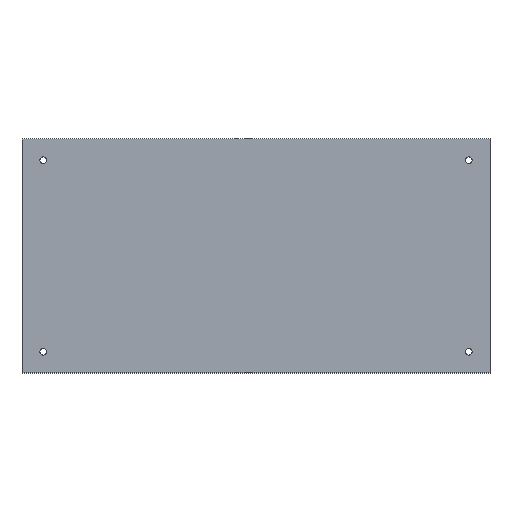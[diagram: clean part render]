
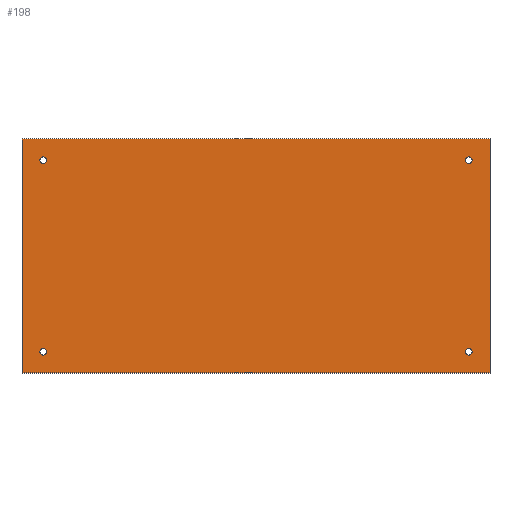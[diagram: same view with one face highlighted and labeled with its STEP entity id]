
A CAD part, top view. The second image highlights one B-rep face of the part: STEP entity #198.
In plain terms, the highlighted planar face has unit normal (0, 0, 1).
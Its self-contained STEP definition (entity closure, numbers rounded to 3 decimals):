
#42 = VERTEX_POINT('',#43);
#43 = CARTESIAN_POINT('',(220.,-110.,1.51));
#49 = EDGE_CURVE('',#42,#50,#52,.T.);
#50 = VERTEX_POINT('',#51);
#51 = CARTESIAN_POINT('',(0.,-110.,1.51));
#52 = LINE('',#53,#54);
#53 = CARTESIAN_POINT('',(220.,-110.,1.51));
#54 = VECTOR('',#55,1.);
#55 = DIRECTION('',(-1.,0.,0.));
#82 = VERTEX_POINT('',#83);
#83 = CARTESIAN_POINT('',(220.,0.,1.51));
#89 = EDGE_CURVE('',#82,#42,#90,.T.);
#90 = LINE('',#91,#92);
#91 = CARTESIAN_POINT('',(220.,0.,1.51));
#92 = VECTOR('',#93,1.);
#93 = DIRECTION('',(0.,-1.,0.));
#111 = EDGE_CURVE('',#50,#112,#114,.T.);
#112 = VERTEX_POINT('',#113);
#113 = CARTESIAN_POINT('',(0.,0.,1.51));
#114 = LINE('',#115,#116);
#115 = CARTESIAN_POINT('',(0.,-110.,1.51));
#116 = VECTOR('',#117,1.);
#117 = DIRECTION('',(0.,1.,0.));
#198 = ADVANCED_FACE('',(#199,#210,#221,#232,#243),#254,.T.);
#199 = FACE_BOUND('',#200,.T.);
#200 = EDGE_LOOP('',(#201,#202,#203,#209));
#201 = ORIENTED_EDGE('',*,*,#49,.F.);
#202 = ORIENTED_EDGE('',*,*,#89,.F.);
#203 = ORIENTED_EDGE('',*,*,#204,.F.);
#204 = EDGE_CURVE('',#112,#82,#205,.T.);
#205 = LINE('',#206,#207);
#206 = CARTESIAN_POINT('',(0.,0.,1.51));
#207 = VECTOR('',#208,1.);
#208 = DIRECTION('',(1.,0.,0.));
#209 = ORIENTED_EDGE('',*,*,#111,.F.);
#210 = FACE_BOUND('',#211,.T.);
#211 = EDGE_LOOP('',(#212));
#212 = ORIENTED_EDGE('',*,*,#213,.T.);
#213 = EDGE_CURVE('',#214,#214,#216,.T.);
#214 = VERTEX_POINT('',#215);
#215 = CARTESIAN_POINT('',(10.,-101.6,1.51));
#216 = CIRCLE('',#217,1.6);
#217 = AXIS2_PLACEMENT_3D('',#218,#219,#220);
#218 = CARTESIAN_POINT('',(10.,-100.,1.51));
#219 = DIRECTION('',(-0.,0.,-1.));
#220 = DIRECTION('',(-0.,-1.,0.));
#221 = FACE_BOUND('',#222,.T.);
#222 = EDGE_LOOP('',(#223));
#223 = ORIENTED_EDGE('',*,*,#224,.T.);
#224 = EDGE_CURVE('',#225,#225,#227,.T.);
#225 = VERTEX_POINT('',#226);
#226 = CARTESIAN_POINT('',(210.,-101.6,1.51));
#227 = CIRCLE('',#228,1.6);
#228 = AXIS2_PLACEMENT_3D('',#229,#230,#231);
#229 = CARTESIAN_POINT('',(210.,-100.,1.51));
#230 = DIRECTION('',(-0.,0.,-1.));
#231 = DIRECTION('',(-0.,-1.,0.));
#232 = FACE_BOUND('',#233,.T.);
#233 = EDGE_LOOP('',(#234));
#234 = ORIENTED_EDGE('',*,*,#235,.T.);
#235 = EDGE_CURVE('',#236,#236,#238,.T.);
#236 = VERTEX_POINT('',#237);
#237 = CARTESIAN_POINT('',(10.,-11.6,1.51));
#238 = CIRCLE('',#239,1.6);
#239 = AXIS2_PLACEMENT_3D('',#240,#241,#242);
#240 = CARTESIAN_POINT('',(10.,-10.,1.51));
#241 = DIRECTION('',(-0.,0.,-1.));
#242 = DIRECTION('',(-0.,-1.,0.));
#243 = FACE_BOUND('',#244,.T.);
#244 = EDGE_LOOP('',(#245));
#245 = ORIENTED_EDGE('',*,*,#246,.T.);
#246 = EDGE_CURVE('',#247,#247,#249,.T.);
#247 = VERTEX_POINT('',#248);
#248 = CARTESIAN_POINT('',(210.,-11.6,1.51));
#249 = CIRCLE('',#250,1.6);
#250 = AXIS2_PLACEMENT_3D('',#251,#252,#253);
#251 = CARTESIAN_POINT('',(210.,-10.,1.51));
#252 = DIRECTION('',(-0.,0.,-1.));
#253 = DIRECTION('',(-0.,-1.,0.));
#254 = PLANE('',#255);
#255 = AXIS2_PLACEMENT_3D('',#256,#257,#258);
#256 = CARTESIAN_POINT('',(0.,0.,1.51));
#257 = DIRECTION('',(0.,0.,1.));
#258 = DIRECTION('',(1.,0.,-0.));
